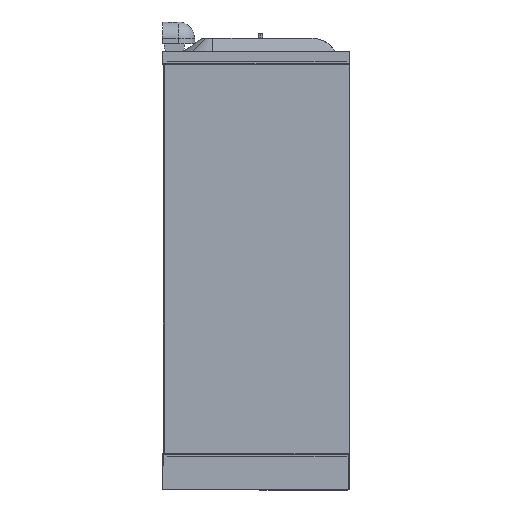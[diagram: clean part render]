
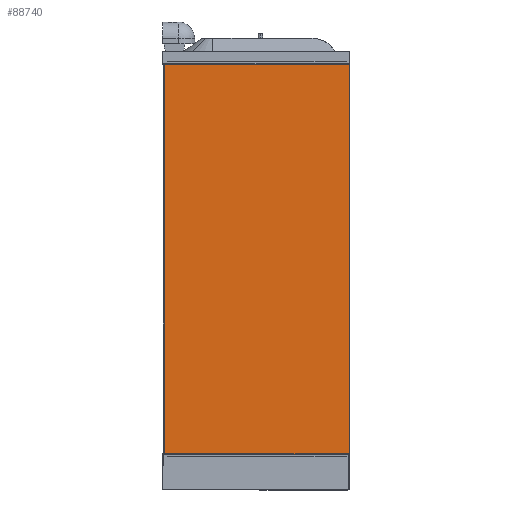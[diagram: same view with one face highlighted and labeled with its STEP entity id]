
A CAD part, left-side view. The second image highlights one B-rep face of the part: STEP entity #88740.
In plain terms, the highlighted free-form (B-spline) face has degree [1, 1] with [2, 2] control points.
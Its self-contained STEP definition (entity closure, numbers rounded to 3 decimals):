
#42442=CARTESIAN_POINT('',(3.567,-885.978,2050.06));
#42443=VERTEX_POINT('',#42442);
#42450=CARTESIAN_POINT('',(3.567,-899.978,2050.06));
#42451=VERTEX_POINT('',#42450);
#42452=CARTESIAN_POINT('',(3.567,-885.978,2050.06));
#42453=DIRECTION('',(0.,-1.,0.0));
#42454=VECTOR('',#42453,14.);
#42455=LINE('',#42452,#42454);
#42456=EDGE_CURVE('',#42443,#42451,#42455,.T.);
#42545=CARTESIAN_POINT('',(3.563,-25.974,2050.06));
#42546=VERTEX_POINT('',#42545);
#42553=CARTESIAN_POINT('',(3.563,-25.974,2063.06));
#42554=VERTEX_POINT('',#42553);
#42555=CARTESIAN_POINT('',(3.563,-25.974,2050.06));
#42556=DIRECTION('',(0.0,0.0,1.0));
#42557=VECTOR('',#42556,13.0);
#42558=LINE('',#42555,#42557);
#42559=EDGE_CURVE('',#42546,#42554,#42558,.T.);
#42575=CARTESIAN_POINT('',(3.567,-885.978,2063.06));
#42576=VERTEX_POINT('',#42575);
#42583=CARTESIAN_POINT('',(3.567,-885.978,2063.06));
#42584=DIRECTION('',(0.0,0.0,-1.0));
#42585=VECTOR('',#42584,13.0);
#42586=LINE('',#42583,#42585);
#42587=EDGE_CURVE('',#42576,#42443,#42586,.T.);
#42601=CARTESIAN_POINT('',(3.563,-11.974,2050.06));
#42602=VERTEX_POINT('',#42601);
#42609=CARTESIAN_POINT('',(3.563,-11.974,2050.06));
#42610=DIRECTION('',(0.,-1.,0.0));
#42611=VECTOR('',#42610,14.);
#42612=LINE('',#42609,#42611);
#42613=EDGE_CURVE('',#42602,#42546,#42612,.T.);
#88491=CARTESIAN_POINT('',(3.567,-885.978,2063.06));
#88492=DIRECTION('',(0.,1.,0.0));
#88493=VECTOR('',#88492,860.004);
#88494=LINE('',#88491,#88493);
#88495=EDGE_CURVE('',#42576,#42554,#88494,.T.);
#88556=CARTESIAN_POINT('',(3.563,-25.974,163.06));
#88557=VERTEX_POINT('',#88556);
#88558=CARTESIAN_POINT('',(3.567,-885.977,163.06));
#88559=VERTEX_POINT('',#88558);
#88560=CARTESIAN_POINT('',(3.563,-25.974,163.06));
#88561=DIRECTION('',(0.,-1.,0.0));
#88562=VECTOR('',#88561,860.004);
#88563=LINE('',#88560,#88562);
#88564=EDGE_CURVE('',#88557,#88559,#88563,.T.);
#88597=CARTESIAN_POINT('',(3.563,-11.977,176.06));
#88598=VERTEX_POINT('',#88597);
#88605=CARTESIAN_POINT('',(3.563,-11.977,2050.06));
#88606=DIRECTION('',(0.0,0.0,-1.0));
#88607=VECTOR('',#88606,1874.);
#88608=LINE('',#88605,#88607);
#88609=EDGE_CURVE('',#42602,#88598,#88608,.T.);
#88621=CARTESIAN_POINT('',(3.563,-25.974,176.06));
#88622=VERTEX_POINT('',#88621);
#88623=CARTESIAN_POINT('',(3.563,-25.974,163.06));
#88624=DIRECTION('',(0.0,0.0,1.0));
#88625=VECTOR('',#88624,13.0);
#88626=LINE('',#88623,#88625);
#88627=EDGE_CURVE('',#88557,#88622,#88626,.T.);
#88646=CARTESIAN_POINT('',(3.563,-25.974,176.06));
#88647=DIRECTION('',(0.,1.,0.0));
#88648=VECTOR('',#88647,14.);
#88649=LINE('',#88646,#88648);
#88650=EDGE_CURVE('',#88622,#88598,#88649,.T.);
#88661=CARTESIAN_POINT('',(3.567,-899.977,176.06));
#88662=VERTEX_POINT('',#88661);
#88671=CARTESIAN_POINT('',(3.567,-899.977,176.06));
#88672=DIRECTION('',(0.0,0.0,1.0));
#88673=VECTOR('',#88672,1874.);
#88674=LINE('',#88671,#88673);
#88675=EDGE_CURVE('',#88662,#42451,#88674,.T.);
#88687=CARTESIAN_POINT('',(3.567,-885.977,176.06));
#88688=VERTEX_POINT('',#88687);
#88695=CARTESIAN_POINT('',(3.567,-885.977,163.06));
#88696=DIRECTION('',(0.0,0.0,1.0));
#88697=VECTOR('',#88696,13.);
#88698=LINE('',#88695,#88697);
#88699=EDGE_CURVE('',#88559,#88688,#88698,.T.);
#88711=CARTESIAN_POINT('',(3.567,-885.977,176.06));
#88712=DIRECTION('',(0.,-1.,0.));
#88713=VECTOR('',#88712,14.);
#88714=LINE('',#88711,#88713);
#88715=EDGE_CURVE('',#88688,#88662,#88714,.T.);
#88721=CARTESIAN_POINT('',(3.563,-11.565,2063.472));
#88722=CARTESIAN_POINT('',(3.563,-11.565,162.647));
#88723=CARTESIAN_POINT('',(3.567,-900.39,2063.472));
#88724=CARTESIAN_POINT('',(3.567,-900.39,162.647));
#88725=B_SPLINE_SURFACE_WITH_KNOTS('',1,1,((#88721,#88723),(#88722,#88724)),.UNSPECIFIED.,.F.,.F.,.U.,(2,2),(2,2),(3.663,1904.488),(13.058,901.884),.UNSPECIFIED.);
#88726=ORIENTED_EDGE('',*,*,#88564,.T.);
#88727=ORIENTED_EDGE('',*,*,#88699,.T.);
#88728=ORIENTED_EDGE('',*,*,#88715,.T.);
#88729=ORIENTED_EDGE('',*,*,#88675,.T.);
#88730=ORIENTED_EDGE('',*,*,#42456,.F.);
#88731=ORIENTED_EDGE('',*,*,#42587,.F.);
#88732=ORIENTED_EDGE('',*,*,#88495,.T.);
#88733=ORIENTED_EDGE('',*,*,#42559,.F.);
#88734=ORIENTED_EDGE('',*,*,#42613,.F.);
#88735=ORIENTED_EDGE('',*,*,#88609,.T.);
#88736=ORIENTED_EDGE('',*,*,#88650,.F.);
#88737=ORIENTED_EDGE('',*,*,#88627,.F.);
#88738=EDGE_LOOP('',(#88726,#88727,#88728,#88729,#88730,#88731,#88732,#88733,#88734,#88735,#88736,#88737));
#88739=FACE_OUTER_BOUND('',#88738,.T.);
#88740=ADVANCED_FACE('',(#88739),#88725,.T.);
